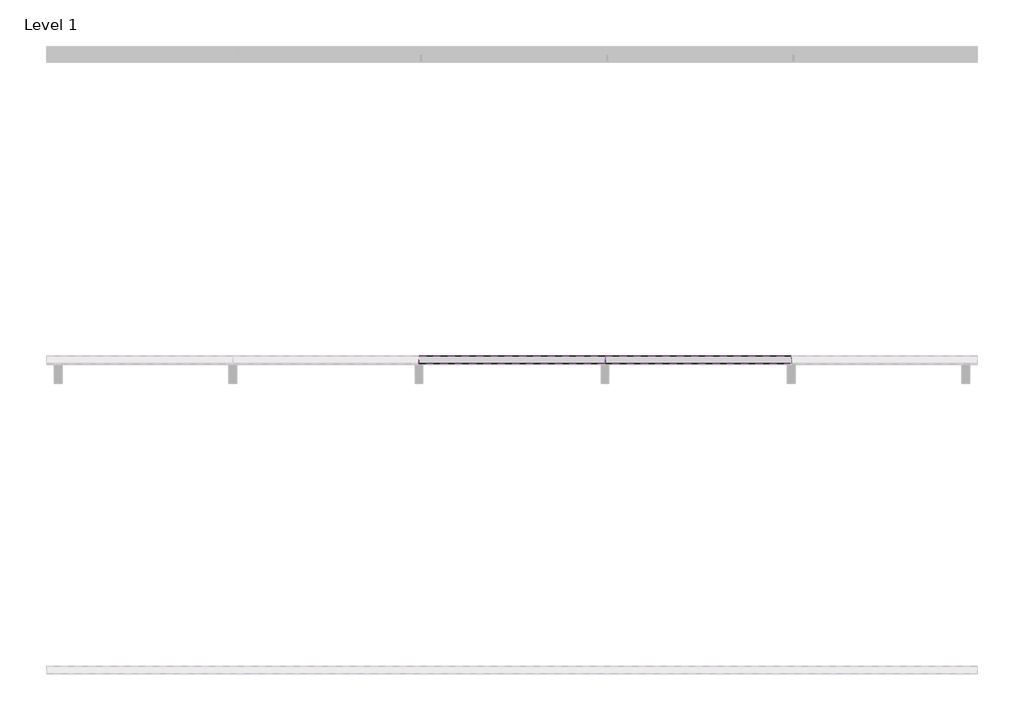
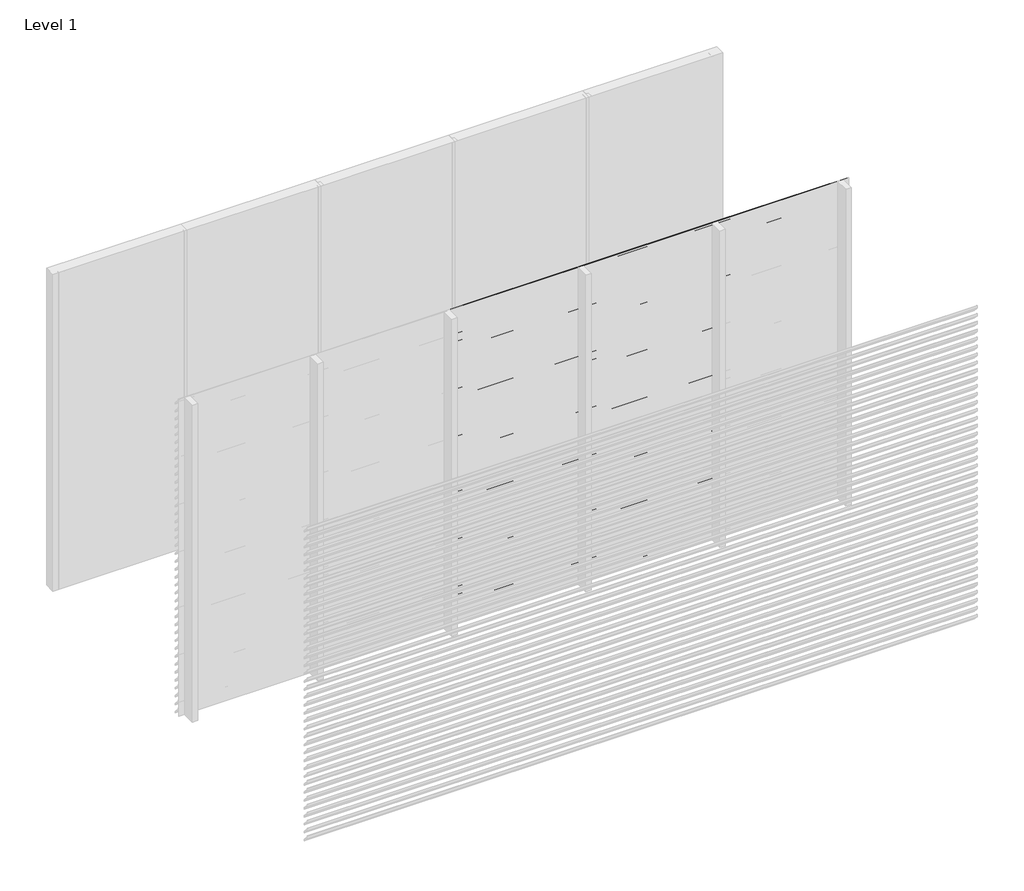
# One storey, part 3 of 11: 91 proxies.
"""IFC4 building model written with IfcOpenShell, lengths in millimetres."""

from ifc_helpers import new_model, si_unit, frame, origin, place, context, project, spatial, polyline, outline, extrude, element, save

model = new_model("IFC4")

# Units and contexts
model_context = context("Model", 3, world=origin())
ifc_project = project(units=[si_unit("LENGTHUNIT", "METRE", prefix="MILLI")], contexts=[model_context])

# Site, building, storey
site = spatial("IfcSite", under=ifc_project)
building = spatial("IfcBuilding", under=site)
storey = spatial("IfcBuildingStorey", under=building, Name="Level 1", Elevation=0.0)

# Proxies
placement = place(None, origin())
element("IfcBuildingElementProxy", 1, Name="Wall Sweeps", at=placement, inside=storey, context=model_context, shape_type="SweptSolid", body=[
    extrude(outline(polyline([(-17995.0, 3000.0), (-17995.0, 2990.7409854), (-17946.0, 2940.0), (-17946.0, 2924.0), (-17997.0, 2976.812046), (-17997.0, 3000.0), (-17995.0, 3000.0)])), frame((4799.9999998, 0.0, 0.0), z_axis=(1.0, 0.0, 0.0), x_axis=(0.0, 1.0, 0.0)), (0.0, 0.0, 1.0), 1200.0000002),
])
element("IfcBuildingElementProxy", 2, Name="Wall Sweeps", at=placement, inside=storey, context=model_context, shape_type="SweptSolid", body=[
    extrude(outline(polyline([(-17995.0, 2925.0), (-17995.0, 2915.7409854), (-17946.0, 2865.0), (-17946.0, 2849.0), (-17997.0, 2901.812046), (-17997.0, 2925.0), (-17995.0, 2925.0)])), frame((4799.9999998, 0.0, 0.0), z_axis=(1.0, 0.0, 0.0), x_axis=(0.0, 1.0, 0.0)), (0.0, 0.0, 1.0), 1200.0000002),
])
element("IfcBuildingElementProxy", 3, Name="Wall Sweeps", at=placement, inside=storey, context=model_context, shape_type="SweptSolid", body=[
    extrude(outline(polyline([(-17995.0, 2850.0), (-17995.0, 2840.7409854), (-17946.0, 2790.0), (-17946.0, 2774.0), (-17997.0, 2826.812046), (-17997.0, 2850.0), (-17995.0, 2850.0)])), frame((4799.9999998, 0.0, 0.0), z_axis=(1.0, 0.0, 0.0), x_axis=(0.0, 1.0, 0.0)), (0.0, 0.0, 1.0), 1200.0000002),
])
element("IfcBuildingElementProxy", 4, Name="Wall Sweeps", at=placement, inside=storey, context=model_context, shape_type="SweptSolid", body=[
    extrude(outline(polyline([(-17995.0, 2775.0), (-17995.0, 2765.7409854), (-17946.0, 2715.0), (-17946.0, 2699.0), (-17997.0, 2751.812046), (-17997.0, 2775.0), (-17995.0, 2775.0)])), frame((4799.9999998, 0.0, 0.0), z_axis=(1.0, 0.0, 0.0), x_axis=(0.0, 1.0, 0.0)), (0.0, 0.0, 1.0), 1200.0000002),
])
element("IfcBuildingElementProxy", 5, Name="Wall Sweeps", at=placement, inside=storey, context=model_context, shape_type="SweptSolid", body=[
    extrude(outline(polyline([(-17995.0, 2700.0), (-17995.0, 2690.7409854), (-17946.0, 2640.0), (-17946.0, 2624.0), (-17997.0, 2676.812046), (-17997.0, 2700.0), (-17995.0, 2700.0)])), frame((4799.9999998, 0.0, 0.0), z_axis=(1.0, 0.0, 0.0), x_axis=(0.0, 1.0, 0.0)), (0.0, 0.0, 1.0), 1200.0000002),
])
element("IfcBuildingElementProxy", 6, Name="Wall Sweeps", at=placement, inside=storey, context=model_context, shape_type="SweptSolid", body=[
    extrude(outline(polyline([(-17995.0, 2625.0), (-17995.0, 2615.7409854), (-17946.0, 2565.0), (-17946.0, 2549.0), (-17997.0, 2601.812046), (-17997.0, 2625.0), (-17995.0, 2625.0)])), frame((4799.9999998, 0.0, 0.0), z_axis=(1.0, 0.0, 0.0), x_axis=(0.0, 1.0, 0.0)), (0.0, 0.0, 1.0), 1200.0000002),
])
element("IfcBuildingElementProxy", 7, Name="Wall Sweeps", at=placement, inside=storey, context=model_context, shape_type="SweptSolid", body=[
    extrude(outline(polyline([(-17995.0, 2550.0), (-17995.0, 2540.7409854), (-17946.0, 2490.0), (-17946.0, 2474.0), (-17997.0, 2526.812046), (-17997.0, 2550.0), (-17995.0, 2550.0)])), frame((4799.9999998, 0.0, 0.0), z_axis=(1.0, 0.0, 0.0), x_axis=(0.0, 1.0, 0.0)), (0.0, 0.0, 1.0), 1200.0000002),
])
element("IfcBuildingElementProxy", 8, Name="Wall Sweeps", at=placement, inside=storey, context=model_context, shape_type="SweptSolid", body=[
    extrude(outline(polyline([(-17995.0, 2475.0), (-17995.0, 2465.7409854), (-17946.0, 2415.0), (-17946.0, 2399.0), (-17997.0, 2451.812046), (-17997.0, 2475.0), (-17995.0, 2475.0)])), frame((4799.9999998, 0.0, 0.0), z_axis=(1.0, 0.0, 0.0), x_axis=(0.0, 1.0, 0.0)), (0.0, 0.0, 1.0), 1200.0000002),
])
element("IfcBuildingElementProxy", 9, Name="Wall Sweeps", at=placement, inside=storey, context=model_context, shape_type="SweptSolid", body=[
    extrude(outline(polyline([(-17995.0, 3000.0), (-17995.0, 2990.7409854), (-17946.0, 2940.0), (-17946.0, 2924.0), (-17997.0, 2976.812046), (-17997.0, 3000.0), (-17995.0, 3000.0)])), frame((3599.9999999, 0.0, 0.0), z_axis=(1.0, 0.0, 0.0), x_axis=(0.0, 1.0, 0.0)), (0.0, 0.0, 1.0), 1199.9999999),
])
element("IfcBuildingElementProxy", 10, Name="Wall Sweeps", at=placement, inside=storey, context=model_context, shape_type="SweptSolid", body=[
    extrude(outline(polyline([(-17995.0, 2925.0), (-17995.0, 2915.7409854), (-17946.0, 2865.0), (-17946.0, 2849.0), (-17997.0, 2901.812046), (-17997.0, 2925.0), (-17995.0, 2925.0)])), frame((3599.9999999, 0.0, 0.0), z_axis=(1.0, 0.0, 0.0), x_axis=(0.0, 1.0, 0.0)), (0.0, 0.0, 1.0), 1199.9999999),
])
element("IfcBuildingElementProxy", 11, Name="Wall Sweeps", at=placement, inside=storey, context=model_context, shape_type="SweptSolid", body=[
    extrude(outline(polyline([(-17995.0, 2850.0), (-17995.0, 2840.7409854), (-17946.0, 2790.0), (-17946.0, 2774.0), (-17997.0, 2826.812046), (-17997.0, 2850.0), (-17995.0, 2850.0)])), frame((3599.9999999, 0.0, 0.0), z_axis=(1.0, 0.0, 0.0), x_axis=(0.0, 1.0, 0.0)), (0.0, 0.0, 1.0), 1199.9999999),
])
element("IfcBuildingElementProxy", 12, Name="Wall Sweeps", at=placement, inside=storey, context=model_context, shape_type="SweptSolid", body=[
    extrude(outline(polyline([(-17995.0, 2775.0), (-17995.0, 2765.7409854), (-17946.0, 2715.0), (-17946.0, 2699.0), (-17997.0, 2751.812046), (-17997.0, 2775.0), (-17995.0, 2775.0)])), frame((3599.9999999, 0.0, 0.0), z_axis=(1.0, 0.0, 0.0), x_axis=(0.0, 1.0, 0.0)), (0.0, 0.0, 1.0), 1199.9999999),
])
element("IfcBuildingElementProxy", 13, Name="Wall Sweeps", at=placement, inside=storey, context=model_context, shape_type="SweptSolid", body=[
    extrude(outline(polyline([(-17995.0, 2700.0), (-17995.0, 2690.7409854), (-17946.0, 2640.0), (-17946.0, 2624.0), (-17997.0, 2676.812046), (-17997.0, 2700.0), (-17995.0, 2700.0)])), frame((3599.9999999, 0.0, 0.0), z_axis=(1.0, 0.0, 0.0), x_axis=(0.0, 1.0, 0.0)), (0.0, 0.0, 1.0), 1199.9999999),
])
element("IfcBuildingElementProxy", 14, Name="Wall Sweeps", at=placement, inside=storey, context=model_context, shape_type="SweptSolid", body=[
    extrude(outline(polyline([(-17995.0, 2625.0), (-17995.0, 2615.7409854), (-17946.0, 2565.0), (-17946.0, 2549.0), (-17997.0, 2601.812046), (-17997.0, 2625.0), (-17995.0, 2625.0)])), frame((3599.9999999, 0.0, 0.0), z_axis=(1.0, 0.0, 0.0), x_axis=(0.0, 1.0, 0.0)), (0.0, 0.0, 1.0), 1199.9999999),
])
element("IfcBuildingElementProxy", 15, Name="Wall Sweeps", at=placement, inside=storey, context=model_context, shape_type="SweptSolid", body=[
    extrude(outline(polyline([(-17995.0, 2550.0), (-17995.0, 2540.7409854), (-17946.0, 2490.0), (-17946.0, 2474.0), (-17997.0, 2526.812046), (-17997.0, 2550.0), (-17995.0, 2550.0)])), frame((3599.9999999, 0.0, 0.0), z_axis=(1.0, 0.0, 0.0), x_axis=(0.0, 1.0, 0.0)), (0.0, 0.0, 1.0), 1199.9999999),
])
element("IfcBuildingElementProxy", 16, Name="Wall Sweeps", at=placement, inside=storey, context=model_context, shape_type="SweptSolid", body=[
    extrude(outline(polyline([(-17995.0, 2475.0), (-17995.0, 2465.7409854), (-17946.0, 2415.0), (-17946.0, 2399.0), (-17997.0, 2451.812046), (-17997.0, 2475.0), (-17995.0, 2475.0)])), frame((3599.9999999, 0.0, 0.0), z_axis=(1.0, 0.0, 0.0), x_axis=(0.0, 1.0, 0.0)), (0.0, 0.0, 1.0), 1199.9999999),
])
element("IfcBuildingElementProxy", 17, Name="Wall Sweeps", at=placement, inside=storey, context=model_context, shape_type="SweptSolid", body=[
    extrude(outline(polyline([(-17995.0, 2400.0), (-17995.0, 2390.7409854), (-17946.0, 2340.0), (-17946.0, 2324.0), (-17997.0, 2376.812046), (-17997.0, 2400.0), (-17995.0, 2400.0)])), frame((3599.9999999, 0.0, 0.0), z_axis=(1.0, 0.0, 0.0), x_axis=(0.0, 1.0, 0.0)), (0.0, 0.0, 1.0), 1199.9999999),
])
element("IfcBuildingElementProxy", 18, Name="Wall Sweeps", at=placement, inside=storey, context=model_context, shape_type="SweptSolid", body=[
    extrude(outline(polyline([(-17995.0, 2325.0), (-17995.0, 2315.7409854), (-17946.0, 2265.0), (-17946.0, 2249.0), (-17997.0, 2301.812046), (-17997.0, 2325.0), (-17995.0, 2325.0)])), frame((3599.9999999, 0.0, 0.0), z_axis=(1.0, 0.0, 0.0), x_axis=(0.0, 1.0, 0.0)), (0.0, 0.0, 1.0), 1199.9999999),
])
element("IfcBuildingElementProxy", 19, Name="Wall Sweeps", at=placement, inside=storey, context=model_context, shape_type="SweptSolid", body=[
    extrude(outline(polyline([(-17995.0, 2250.0), (-17995.0, 2240.7409854), (-17946.0, 2190.0), (-17946.0, 2174.0), (-17997.0, 2226.812046), (-17997.0, 2250.0), (-17995.0, 2250.0)])), frame((3599.9999999, 0.0, 0.0), z_axis=(1.0, 0.0, 0.0), x_axis=(0.0, 1.0, 0.0)), (0.0, 0.0, 1.0), 1199.9999999),
])
element("IfcBuildingElementProxy", 20, Name="Wall Sweeps", at=placement, inside=storey, context=model_context, shape_type="SweptSolid", body=[
    extrude(outline(polyline([(-17995.0, 2175.0), (-17995.0, 2165.7409854), (-17946.0, 2115.0), (-17946.0, 2099.0), (-17997.0, 2151.812046), (-17997.0, 2175.0), (-17995.0, 2175.0)])), frame((3599.9999999, 0.0, 0.0), z_axis=(1.0, 0.0, 0.0), x_axis=(0.0, 1.0, 0.0)), (0.0, 0.0, 1.0), 1199.9999999),
])
element("IfcBuildingElementProxy", 21, Name="Wall Sweeps", at=placement, inside=storey, context=model_context, shape_type="SweptSolid", body=[
    extrude(outline(polyline([(-17995.0, 2100.0), (-17995.0, 2090.7409854), (-17946.0, 2040.0), (-17946.0, 2024.0), (-17997.0, 2076.812046), (-17997.0, 2100.0), (-17995.0, 2100.0)])), frame((3599.9999999, 0.0, 0.0), z_axis=(1.0, 0.0, 0.0), x_axis=(0.0, 1.0, 0.0)), (0.0, 0.0, 1.0), 1199.9999999),
])
element("IfcBuildingElementProxy", 22, Name="Wall Sweeps", at=placement, inside=storey, context=model_context, shape_type="SweptSolid", body=[
    extrude(outline(polyline([(-17995.0, 2025.0), (-17995.0, 2015.7409854), (-17946.0, 1965.0), (-17946.0, 1949.0), (-17997.0, 2001.812046), (-17997.0, 2025.0), (-17995.0, 2025.0)])), frame((3599.9999999, 0.0, 0.0), z_axis=(1.0, 0.0, 0.0), x_axis=(0.0, 1.0, 0.0)), (0.0, 0.0, 1.0), 1199.9999999),
])
element("IfcBuildingElementProxy", 23, Name="Wall Sweeps", at=placement, inside=storey, context=model_context, shape_type="SweptSolid", body=[
    extrude(outline(polyline([(-17995.0, 1950.0), (-17995.0, 1940.7409854), (-17946.0, 1890.0), (-17946.0, 1874.0), (-17997.0, 1926.812046), (-17997.0, 1950.0), (-17995.0, 1950.0)])), frame((3599.9999999, 0.0, 0.0), z_axis=(1.0, 0.0, 0.0), x_axis=(0.0, 1.0, 0.0)), (0.0, 0.0, 1.0), 1199.9999999),
])
element("IfcBuildingElementProxy", 24, Name="Wall Sweeps", at=placement, inside=storey, context=model_context, shape_type="SweptSolid", body=[
    extrude(outline(polyline([(-17995.0, 1875.0), (-17995.0, 1865.7409854), (-17946.0, 1815.0), (-17946.0, 1799.0), (-17997.0, 1851.812046), (-17997.0, 1875.0), (-17995.0, 1875.0)])), frame((3599.9999999, 0.0, 0.0), z_axis=(1.0, 0.0, 0.0), x_axis=(0.0, 1.0, 0.0)), (0.0, 0.0, 1.0), 1199.9999999),
])
element("IfcBuildingElementProxy", 25, Name="Wall Sweeps", at=placement, inside=storey, context=model_context, shape_type="SweptSolid", body=[
    extrude(outline(polyline([(-17995.0, 1800.0), (-17995.0, 1790.7409854), (-17946.0, 1740.0), (-17946.0, 1724.0), (-17997.0, 1776.812046), (-17997.0, 1800.0), (-17995.0, 1800.0)])), frame((3599.9999999, 0.0, 0.0), z_axis=(1.0, 0.0, 0.0), x_axis=(0.0, 1.0, 0.0)), (0.0, 0.0, 1.0), 1199.9999999),
])
element("IfcBuildingElementProxy", 26, Name="Wall Sweeps", at=placement, inside=storey, context=model_context, shape_type="SweptSolid", body=[
    extrude(outline(polyline([(-17995.0, 1725.0), (-17995.0, 1715.7409854), (-17946.0, 1665.0), (-17946.0, 1649.0), (-17997.0, 1701.812046), (-17997.0, 1725.0), (-17995.0, 1725.0)])), frame((3599.9999999, 0.0, 0.0), z_axis=(1.0, 0.0, 0.0), x_axis=(0.0, 1.0, 0.0)), (0.0, 0.0, 1.0), 1199.9999999),
])
element("IfcBuildingElementProxy", 27, Name="Wall Sweeps", at=placement, inside=storey, context=model_context, shape_type="SweptSolid", body=[
    extrude(outline(polyline([(-17995.0, 1650.0), (-17995.0, 1640.7409854), (-17946.0, 1590.0), (-17946.0, 1574.0), (-17997.0, 1626.812046), (-17997.0, 1650.0), (-17995.0, 1650.0)])), frame((3599.9999999, 0.0, 0.0), z_axis=(1.0, 0.0, 0.0), x_axis=(0.0, 1.0, 0.0)), (0.0, 0.0, 1.0), 1199.9999999),
])
element("IfcBuildingElementProxy", 28, Name="Wall Sweeps", at=placement, inside=storey, context=model_context, shape_type="SweptSolid", body=[
    extrude(outline(polyline([(-17995.0, 1575.0), (-17995.0, 1565.7409854), (-17946.0, 1515.0), (-17946.0, 1499.0), (-17997.0, 1551.812046), (-17997.0, 1575.0), (-17995.0, 1575.0)])), frame((3599.9999999, 0.0, 0.0), z_axis=(1.0, 0.0, 0.0), x_axis=(0.0, 1.0, 0.0)), (0.0, 0.0, 1.0), 1199.9999999),
])
element("IfcBuildingElementProxy", 29, Name="Wall Sweeps", at=placement, inside=storey, context=model_context, shape_type="SweptSolid", body=[
    extrude(outline(polyline([(-17995.0, 1500.0), (-17995.0, 1490.7409854), (-17946.0, 1440.0), (-17946.0, 1424.0), (-17997.0, 1476.812046), (-17997.0, 1500.0), (-17995.0, 1500.0)])), frame((3599.9999999, 0.0, 0.0), z_axis=(1.0, 0.0, 0.0), x_axis=(0.0, 1.0, 0.0)), (0.0, 0.0, 1.0), 1199.9999999),
])
element("IfcBuildingElementProxy", 30, Name="Wall Sweeps", at=placement, inside=storey, context=model_context, shape_type="SweptSolid", body=[
    extrude(outline(polyline([(-17995.0, 1425.0), (-17995.0, 1415.7409854), (-17946.0, 1365.0), (-17946.0, 1349.0), (-17997.0, 1401.812046), (-17997.0, 1425.0), (-17995.0, 1425.0)])), frame((3599.9999999, 0.0, 0.0), z_axis=(1.0, 0.0, 0.0), x_axis=(0.0, 1.0, 0.0)), (0.0, 0.0, 1.0), 1199.9999999),
])
element("IfcBuildingElementProxy", 31, Name="Wall Sweeps", at=placement, inside=storey, context=model_context, shape_type="SweptSolid", body=[
    extrude(outline(polyline([(-17995.0, 1350.0), (-17995.0, 1340.7409854), (-17946.0, 1290.0), (-17946.0, 1274.0), (-17997.0, 1326.812046), (-17997.0, 1350.0), (-17995.0, 1350.0)])), frame((3599.9999999, 0.0, 0.0), z_axis=(1.0, 0.0, 0.0), x_axis=(0.0, 1.0, 0.0)), (0.0, 0.0, 1.0), 1199.9999999),
])
element("IfcBuildingElementProxy", 32, Name="Wall Sweeps", at=placement, inside=storey, context=model_context, shape_type="SweptSolid", body=[
    extrude(outline(polyline([(-17995.0, 1275.0), (-17995.0, 1265.7409854), (-17946.0, 1215.0), (-17946.0, 1199.0), (-17997.0, 1251.812046), (-17997.0, 1275.0), (-17995.0, 1275.0)])), frame((3599.9999999, 0.0, 0.0), z_axis=(1.0, 0.0, 0.0), x_axis=(0.0, 1.0, 0.0)), (0.0, 0.0, 1.0), 1199.9999999),
])
element("IfcBuildingElementProxy", 33, Name="Wall Sweeps", at=placement, inside=storey, context=model_context, shape_type="SweptSolid", body=[
    extrude(outline(polyline([(-17995.0, 1200.0), (-17995.0, 1190.7409854), (-17946.0, 1140.0), (-17946.0, 1124.0), (-17997.0, 1176.812046), (-17997.0, 1200.0), (-17995.0, 1200.0)])), frame((3599.9999999, 0.0, 0.0), z_axis=(1.0, 0.0, 0.0), x_axis=(0.0, 1.0, 0.0)), (0.0, 0.0, 1.0), 1199.9999999),
])
element("IfcBuildingElementProxy", 34, Name="Wall Sweeps", at=placement, inside=storey, context=model_context, shape_type="SweptSolid", body=[
    extrude(outline(polyline([(-17995.0, 1125.0), (-17995.0, 1115.7409854), (-17946.0, 1065.0), (-17946.0, 1049.0), (-17997.0, 1101.812046), (-17997.0, 1125.0), (-17995.0, 1125.0)])), frame((3599.9999999, 0.0, 0.0), z_axis=(1.0, 0.0, 0.0), x_axis=(0.0, 1.0, 0.0)), (0.0, 0.0, 1.0), 1199.9999999),
])
element("IfcBuildingElementProxy", 35, Name="Wall Sweeps", at=placement, inside=storey, context=model_context, shape_type="SweptSolid", body=[
    extrude(outline(polyline([(-17995.0, 1050.0), (-17995.0, 1040.7409854), (-17946.0, 990.0), (-17946.0, 974.0), (-17997.0, 1026.812046), (-17997.0, 1050.0), (-17995.0, 1050.0)])), frame((3599.9999999, 0.0, 0.0), z_axis=(1.0, 0.0, 0.0), x_axis=(0.0, 1.0, 0.0)), (0.0, 0.0, 1.0), 1199.9999999),
])
element("IfcBuildingElementProxy", 36, Name="Wall Sweeps", at=placement, inside=storey, context=model_context, shape_type="SweptSolid", body=[
    extrude(outline(polyline([(-17995.0, 975.0), (-17995.0, 965.7409854), (-17946.0, 915.0), (-17946.0, 899.0), (-17997.0, 951.812046), (-17997.0, 975.0), (-17995.0, 975.0)])), frame((3599.9999999, 0.0, 0.0), z_axis=(1.0, 0.0, 0.0), x_axis=(0.0, 1.0, 0.0)), (0.0, 0.0, 1.0), 1199.9999999),
])
element("IfcBuildingElementProxy", 37, Name="Wall Sweeps", at=placement, inside=storey, context=model_context, shape_type="SweptSolid", body=[
    extrude(outline(polyline([(-17995.0, 900.0), (-17995.0, 890.7409854), (-17946.0, 840.0), (-17946.0, 824.0), (-17997.0, 876.812046), (-17997.0, 900.0), (-17995.0, 900.0)])), frame((3599.9999999, 0.0, 0.0), z_axis=(1.0, 0.0, 0.0), x_axis=(0.0, 1.0, 0.0)), (0.0, 0.0, 1.0), 1199.9999999),
])
element("IfcBuildingElementProxy", 38, Name="Wall Sweeps", at=placement, inside=storey, context=model_context, shape_type="SweptSolid", body=[
    extrude(outline(polyline([(-17995.0, 825.0), (-17995.0, 815.7409854), (-17946.0, 765.0), (-17946.0, 749.0), (-17997.0, 801.812046), (-17997.0, 825.0), (-17995.0, 825.0)])), frame((3599.9999999, 0.0, 0.0), z_axis=(1.0, 0.0, 0.0), x_axis=(0.0, 1.0, 0.0)), (0.0, 0.0, 1.0), 1199.9999999),
])
element("IfcBuildingElementProxy", 39, Name="Wall Sweeps", at=placement, inside=storey, context=model_context, shape_type="SweptSolid", body=[
    extrude(outline(polyline([(-17995.0, 750.0), (-17995.0, 740.7409854), (-17946.0, 690.0), (-17946.0, 674.0), (-17997.0, 726.812046), (-17997.0, 750.0), (-17995.0, 750.0)])), frame((3599.9999999, 0.0, 0.0), z_axis=(1.0, 0.0, 0.0), x_axis=(0.0, 1.0, 0.0)), (0.0, 0.0, 1.0), 1199.9999999),
])
element("IfcBuildingElementProxy", 40, Name="Wall Sweeps", at=placement, inside=storey, context=model_context, shape_type="SweptSolid", body=[
    extrude(outline(polyline([(-17995.0, 675.0), (-17995.0, 665.7409854), (-17946.0, 615.0), (-17946.0, 599.0), (-17997.0, 651.812046), (-17997.0, 675.0), (-17995.0, 675.0)])), frame((3599.9999999, 0.0, 0.0), z_axis=(1.0, 0.0, 0.0), x_axis=(0.0, 1.0, 0.0)), (0.0, 0.0, 1.0), 1199.9999999),
])
element("IfcBuildingElementProxy", 41, Name="Wall Sweeps", at=placement, inside=storey, context=model_context, shape_type="SweptSolid", body=[
    extrude(outline(polyline([(-17995.0, 600.0), (-17995.0, 590.7409854), (-17946.0, 540.0), (-17946.0, 524.0), (-17997.0, 576.812046), (-17997.0, 600.0), (-17995.0, 600.0)])), frame((3599.9999999, 0.0, 0.0), z_axis=(1.0, 0.0, 0.0), x_axis=(0.0, 1.0, 0.0)), (0.0, 0.0, 1.0), 1199.9999999),
])
element("IfcBuildingElementProxy", 42, Name="Wall Sweeps", at=placement, inside=storey, context=model_context, shape_type="SweptSolid", body=[
    extrude(outline(polyline([(-17995.0, 525.0), (-17995.0, 515.7409854), (-17946.0, 465.0), (-17946.0, 449.0), (-17997.0, 501.812046), (-17997.0, 525.0), (-17995.0, 525.0)])), frame((3599.9999999, 0.0, 0.0), z_axis=(1.0, 0.0, 0.0), x_axis=(0.0, 1.0, 0.0)), (0.0, 0.0, 1.0), 1199.9999999),
])
element("IfcBuildingElementProxy", 43, Name="Wall Sweeps", at=placement, inside=storey, context=model_context, shape_type="SweptSolid", body=[
    extrude(outline(polyline([(-17995.0, 450.0), (-17995.0, 440.7409854), (-17946.0, 390.0), (-17946.0, 374.0), (-17997.0, 426.812046), (-17997.0, 450.0), (-17995.0, 450.0)])), frame((3599.9999999, 0.0, 0.0), z_axis=(1.0, 0.0, 0.0), x_axis=(0.0, 1.0, 0.0)), (0.0, 0.0, 1.0), 1199.9999999),
])
element("IfcBuildingElementProxy", 44, Name="Wall Sweeps", at=placement, inside=storey, context=model_context, shape_type="SweptSolid", body=[
    extrude(outline(polyline([(-17995.0, 375.0), (-17995.0, 365.7409854), (-17946.0, 315.0), (-17946.0, 299.0), (-17997.0, 351.812046), (-17997.0, 375.0), (-17995.0, 375.0)])), frame((3599.9999999, 0.0, 0.0), z_axis=(1.0, 0.0, 0.0), x_axis=(0.0, 1.0, 0.0)), (0.0, 0.0, 1.0), 1199.9999999),
])
element("IfcBuildingElementProxy", 45, Name="Wall Sweeps", at=placement, inside=storey, context=model_context, shape_type="SweptSolid", body=[
    extrude(outline(polyline([(-17995.0, 300.0), (-17995.0, 290.7409854), (-17946.0, 240.0), (-17946.0, 224.0), (-17997.0, 276.812046), (-17997.0, 300.0), (-17995.0, 300.0)])), frame((3599.9999999, 0.0, 0.0), z_axis=(1.0, 0.0, 0.0), x_axis=(0.0, 1.0, 0.0)), (0.0, 0.0, 1.0), 1199.9999999),
])
element("IfcBuildingElementProxy", 46, Name="Wall Sweeps", at=placement, inside=storey, context=model_context, shape_type="SweptSolid", body=[
    extrude(outline(polyline([(-17995.0, 225.0), (-17995.0, 215.7409854), (-17946.0, 165.0), (-17946.0, 149.0), (-17997.0, 201.812046), (-17997.0, 225.0), (-17995.0, 225.0)])), frame((3599.9999999, 0.0, 0.0), z_axis=(1.0, 0.0, 0.0), x_axis=(0.0, 1.0, 0.0)), (0.0, 0.0, 1.0), 1199.9999999),
])
element("IfcBuildingElementProxy", 47, Name="Wall Sweeps", at=placement, inside=storey, context=model_context, shape_type="SweptSolid", body=[
    extrude(outline(polyline([(-17995.0, 150.0), (-17995.0, 140.7409854), (-17946.0, 90.0), (-17946.0, 74.0), (-17997.0, 126.812046), (-17997.0, 150.0), (-17995.0, 150.0)])), frame((3599.9999999, 0.0, 0.0), z_axis=(1.0, 0.0, 0.0), x_axis=(0.0, 1.0, 0.0)), (0.0, 0.0, 1.0), 1199.9999999),
])
element("IfcBuildingElementProxy", 48, Name="Wall Sweeps", at=placement, inside=storey, context=model_context, shape_type="SweptSolid", body=[
    extrude(outline(polyline([(-17995.0, 75.0), (-17995.0, 65.7409854), (-17946.0, 15.0), (-17946.0, -1.0), (-17997.0, 51.812046), (-17997.0, 75.0), (-17995.0, 75.0)])), frame((3599.9999999, 0.0, 0.0), z_axis=(1.0, 0.0, 0.0), x_axis=(0.0, 1.0, 0.0)), (0.0, 0.0, 1.0), 1199.9999999),
])
element("IfcBuildingElementProxy", 49, Name="Wall Sweeps", at=placement, inside=storey, context=model_context, shape_type="SweptSolid", body=[
    extrude(outline(polyline([(-17995.0, 3000.0), (-17995.0, 2990.7409854), (-17946.0, 2940.0), (-17946.0, 2924.0), (-17997.0, 2976.812046), (-17997.0, 3000.0), (-17995.0, 3000.0)])), frame((2400.0000001, 0.0, 0.0), z_axis=(1.0, 0.0, 0.0), x_axis=(0.0, 1.0, 0.0)), (0.0, 0.0, 1.0), 1199.9999999),
])
element("IfcBuildingElementProxy", 50, Name="Wall Sweeps", at=placement, inside=storey, context=model_context, shape_type="SweptSolid", body=[
    extrude(outline(polyline([(-17995.0, 2925.0), (-17995.0, 2915.7409854), (-17946.0, 2865.0), (-17946.0, 2849.0), (-17997.0, 2901.812046), (-17997.0, 2925.0), (-17995.0, 2925.0)])), frame((2400.0000001, 0.0, 0.0), z_axis=(1.0, 0.0, 0.0), x_axis=(0.0, 1.0, 0.0)), (0.0, 0.0, 1.0), 1199.9999999),
])
element("IfcBuildingElementProxy", 51, Name="Wall Sweeps", at=placement, inside=storey, context=model_context, shape_type="SweptSolid", body=[
    extrude(outline(polyline([(-17995.0, 2850.0), (-17995.0, 2840.7409854), (-17946.0, 2790.0), (-17946.0, 2774.0), (-17997.0, 2826.812046), (-17997.0, 2850.0), (-17995.0, 2850.0)])), frame((2400.0000001, 0.0, 0.0), z_axis=(1.0, 0.0, 0.0), x_axis=(0.0, 1.0, 0.0)), (0.0, 0.0, 1.0), 1199.9999999),
])
element("IfcBuildingElementProxy", 52, Name="Wall Sweeps", at=placement, inside=storey, context=model_context, shape_type="SweptSolid", body=[
    extrude(outline(polyline([(-17995.0, 2775.0), (-17995.0, 2765.7409854), (-17946.0, 2715.0), (-17946.0, 2699.0), (-17997.0, 2751.812046), (-17997.0, 2775.0), (-17995.0, 2775.0)])), frame((2400.0000001, 0.0, 0.0), z_axis=(1.0, 0.0, 0.0), x_axis=(0.0, 1.0, 0.0)), (0.0, 0.0, 1.0), 1199.9999999),
])
element("IfcBuildingElementProxy", 53, Name="Wall Sweeps", at=placement, inside=storey, context=model_context, shape_type="SweptSolid", body=[
    extrude(outline(polyline([(-17995.0, 2700.0), (-17995.0, 2690.7409854), (-17946.0, 2640.0), (-17946.0, 2624.0), (-17997.0, 2676.812046), (-17997.0, 2700.0), (-17995.0, 2700.0)])), frame((2400.0000001, 0.0, 0.0), z_axis=(1.0, 0.0, 0.0), x_axis=(0.0, 1.0, 0.0)), (0.0, 0.0, 1.0), 1199.9999999),
])
element("IfcBuildingElementProxy", 54, Name="Wall Sweeps", at=placement, inside=storey, context=model_context, shape_type="SweptSolid", body=[
    extrude(outline(polyline([(-17995.0, 2625.0), (-17995.0, 2615.7409854), (-17946.0, 2565.0), (-17946.0, 2549.0), (-17997.0, 2601.812046), (-17997.0, 2625.0), (-17995.0, 2625.0)])), frame((2400.0000001, 0.0, 0.0), z_axis=(1.0, 0.0, 0.0), x_axis=(0.0, 1.0, 0.0)), (0.0, 0.0, 1.0), 1199.9999999),
])
element("IfcBuildingElementProxy", 55, Name="Wall Sweeps", at=placement, inside=storey, context=model_context, shape_type="SweptSolid", body=[
    extrude(outline(polyline([(-17995.0, 2550.0), (-17995.0, 2540.7409854), (-17946.0, 2490.0), (-17946.0, 2474.0), (-17997.0, 2526.812046), (-17997.0, 2550.0), (-17995.0, 2550.0)])), frame((2400.0000001, 0.0, 0.0), z_axis=(1.0, 0.0, 0.0), x_axis=(0.0, 1.0, 0.0)), (0.0, 0.0, 1.0), 1199.9999999),
])
element("IfcBuildingElementProxy", 56, Name="Wall Sweeps", at=placement, inside=storey, context=model_context, shape_type="SweptSolid", body=[
    extrude(outline(polyline([(-17995.0, 2475.0), (-17995.0, 2465.7409854), (-17946.0, 2415.0), (-17946.0, 2399.0), (-17997.0, 2451.812046), (-17997.0, 2475.0), (-17995.0, 2475.0)])), frame((2400.0000001, 0.0, 0.0), z_axis=(1.0, 0.0, 0.0), x_axis=(0.0, 1.0, 0.0)), (0.0, 0.0, 1.0), 1199.9999999),
])
element("IfcBuildingElementProxy", 57, Name="Wall Sweeps", at=placement, inside=storey, context=model_context, shape_type="SweptSolid", body=[
    extrude(outline(polyline([(-17995.0, 2400.0), (-17995.0, 2390.7409854), (-17946.0, 2340.0), (-17946.0, 2324.0), (-17997.0, 2376.812046), (-17997.0, 2400.0), (-17995.0, 2400.0)])), frame((2400.0000001, 0.0, 0.0), z_axis=(1.0, 0.0, 0.0), x_axis=(0.0, 1.0, 0.0)), (0.0, 0.0, 1.0), 1199.9999999),
])
element("IfcBuildingElementProxy", 58, Name="Wall Sweeps", at=placement, inside=storey, context=model_context, shape_type="SweptSolid", body=[
    extrude(outline(polyline([(-17995.0, 2325.0), (-17995.0, 2315.7409854), (-17946.0, 2265.0), (-17946.0, 2249.0), (-17997.0, 2301.812046), (-17997.0, 2325.0), (-17995.0, 2325.0)])), frame((2400.0000001, 0.0, 0.0), z_axis=(1.0, 0.0, 0.0), x_axis=(0.0, 1.0, 0.0)), (0.0, 0.0, 1.0), 1199.9999999),
])
element("IfcBuildingElementProxy", 59, Name="Wall Sweeps", at=placement, inside=storey, context=model_context, shape_type="SweptSolid", body=[
    extrude(outline(polyline([(-17995.0, 2250.0), (-17995.0, 2240.7409854), (-17946.0, 2190.0), (-17946.0, 2174.0), (-17997.0, 2226.812046), (-17997.0, 2250.0), (-17995.0, 2250.0)])), frame((2400.0000001, 0.0, 0.0), z_axis=(1.0, 0.0, 0.0), x_axis=(0.0, 1.0, 0.0)), (0.0, 0.0, 1.0), 1199.9999999),
])
element("IfcBuildingElementProxy", 60, Name="Wall Sweeps", at=placement, inside=storey, context=model_context, shape_type="SweptSolid", body=[
    extrude(outline(polyline([(-17995.0, 2175.0), (-17995.0, 2165.7409854), (-17946.0, 2115.0), (-17946.0, 2099.0), (-17997.0, 2151.812046), (-17997.0, 2175.0), (-17995.0, 2175.0)])), frame((2400.0000001, 0.0, 0.0), z_axis=(1.0, 0.0, 0.0), x_axis=(0.0, 1.0, 0.0)), (0.0, 0.0, 1.0), 1199.9999999),
])
element("IfcBuildingElementProxy", 61, Name="Wall Sweeps", at=placement, inside=storey, context=model_context, shape_type="SweptSolid", body=[
    extrude(outline(polyline([(-17995.0, 2100.0), (-17995.0, 2090.7409854), (-17946.0, 2040.0), (-17946.0, 2024.0), (-17997.0, 2076.812046), (-17997.0, 2100.0), (-17995.0, 2100.0)])), frame((2400.0000001, 0.0, 0.0), z_axis=(1.0, 0.0, 0.0), x_axis=(0.0, 1.0, 0.0)), (0.0, 0.0, 1.0), 1199.9999999),
])
element("IfcBuildingElementProxy", 62, Name="Wall Sweeps", at=placement, inside=storey, context=model_context, shape_type="SweptSolid", body=[
    extrude(outline(polyline([(-17995.0, 2025.0), (-17995.0, 2015.7409854), (-17946.0, 1965.0), (-17946.0, 1949.0), (-17997.0, 2001.812046), (-17997.0, 2025.0), (-17995.0, 2025.0)])), frame((2400.0000001, 0.0, 0.0), z_axis=(1.0, 0.0, 0.0), x_axis=(0.0, 1.0, 0.0)), (0.0, 0.0, 1.0), 1199.9999999),
])
element("IfcBuildingElementProxy", 63, Name="Wall Sweeps", at=placement, inside=storey, context=model_context, shape_type="SweptSolid", body=[
    extrude(outline(polyline([(-17995.0, 1950.0), (-17995.0, 1940.7409854), (-17946.0, 1890.0), (-17946.0, 1874.0), (-17997.0, 1926.812046), (-17997.0, 1950.0), (-17995.0, 1950.0)])), frame((2400.0000001, 0.0, 0.0), z_axis=(1.0, 0.0, 0.0), x_axis=(0.0, 1.0, 0.0)), (0.0, 0.0, 1.0), 1199.9999999),
])
element("IfcBuildingElementProxy", 64, Name="Wall Sweeps", at=placement, inside=storey, context=model_context, shape_type="SweptSolid", body=[
    extrude(outline(polyline([(-17995.0, 1875.0), (-17995.0, 1865.7409854), (-17946.0, 1815.0), (-17946.0, 1799.0), (-17997.0, 1851.812046), (-17997.0, 1875.0), (-17995.0, 1875.0)])), frame((2400.0000001, 0.0, 0.0), z_axis=(1.0, 0.0, 0.0), x_axis=(0.0, 1.0, 0.0)), (0.0, 0.0, 1.0), 1199.9999999),
])
element("IfcBuildingElementProxy", 65, Name="Wall Sweeps", at=placement, inside=storey, context=model_context, shape_type="SweptSolid", body=[
    extrude(outline(polyline([(-17995.0, 1800.0), (-17995.0, 1790.7409854), (-17946.0, 1740.0), (-17946.0, 1724.0), (-17997.0, 1776.812046), (-17997.0, 1800.0), (-17995.0, 1800.0)])), frame((2400.0000001, 0.0, 0.0), z_axis=(1.0, 0.0, 0.0), x_axis=(0.0, 1.0, 0.0)), (0.0, 0.0, 1.0), 1199.9999999),
])
element("IfcBuildingElementProxy", 66, Name="Wall Sweeps", at=placement, inside=storey, context=model_context, shape_type="SweptSolid", body=[
    extrude(outline(polyline([(-17995.0, 1725.0), (-17995.0, 1715.7409854), (-17946.0, 1665.0), (-17946.0, 1649.0), (-17997.0, 1701.812046), (-17997.0, 1725.0), (-17995.0, 1725.0)])), frame((2400.0000001, 0.0, 0.0), z_axis=(1.0, 0.0, 0.0), x_axis=(0.0, 1.0, 0.0)), (0.0, 0.0, 1.0), 1199.9999999),
])
element("IfcBuildingElementProxy", 67, Name="Wall Sweeps", at=placement, inside=storey, context=model_context, shape_type="SweptSolid", body=[
    extrude(outline(polyline([(-17995.0, 1650.0), (-17995.0, 1640.7409854), (-17946.0, 1590.0), (-17946.0, 1574.0), (-17997.0, 1626.812046), (-17997.0, 1650.0), (-17995.0, 1650.0)])), frame((2400.0000001, 0.0, 0.0), z_axis=(1.0, 0.0, 0.0), x_axis=(0.0, 1.0, 0.0)), (0.0, 0.0, 1.0), 1199.9999999),
])
element("IfcBuildingElementProxy", 68, Name="Wall Sweeps", at=placement, inside=storey, context=model_context, shape_type="SweptSolid", body=[
    extrude(outline(polyline([(-17995.0, 1575.0), (-17995.0, 1565.7409854), (-17946.0, 1515.0), (-17946.0, 1499.0), (-17997.0, 1551.812046), (-17997.0, 1575.0), (-17995.0, 1575.0)])), frame((2400.0000001, 0.0, 0.0), z_axis=(1.0, 0.0, 0.0), x_axis=(0.0, 1.0, 0.0)), (0.0, 0.0, 1.0), 1199.9999999),
])
element("IfcBuildingElementProxy", 69, Name="Wall Sweeps", at=placement, inside=storey, context=model_context, shape_type="SweptSolid", body=[
    extrude(outline(polyline([(-17995.0, 1500.0), (-17995.0, 1490.7409854), (-17946.0, 1440.0), (-17946.0, 1424.0), (-17997.0, 1476.812046), (-17997.0, 1500.0), (-17995.0, 1500.0)])), frame((2400.0000001, 0.0, 0.0), z_axis=(1.0, 0.0, 0.0), x_axis=(0.0, 1.0, 0.0)), (0.0, 0.0, 1.0), 1199.9999999),
])
element("IfcBuildingElementProxy", 70, Name="Wall Sweeps", at=placement, inside=storey, context=model_context, shape_type="SweptSolid", body=[
    extrude(outline(polyline([(-17995.0, 1425.0), (-17995.0, 1415.7409854), (-17946.0, 1365.0), (-17946.0, 1349.0), (-17997.0, 1401.812046), (-17997.0, 1425.0), (-17995.0, 1425.0)])), frame((2400.0000001, 0.0, 0.0), z_axis=(1.0, 0.0, 0.0), x_axis=(0.0, 1.0, 0.0)), (0.0, 0.0, 1.0), 1199.9999999),
])
element("IfcBuildingElementProxy", 71, Name="Wall Sweeps", at=placement, inside=storey, context=model_context, shape_type="SweptSolid", body=[
    extrude(outline(polyline([(-17995.0, 1350.0), (-17995.0, 1340.7409854), (-17946.0, 1290.0), (-17946.0, 1274.0), (-17997.0, 1326.812046), (-17997.0, 1350.0), (-17995.0, 1350.0)])), frame((2400.0000001, 0.0, 0.0), z_axis=(1.0, 0.0, 0.0), x_axis=(0.0, 1.0, 0.0)), (0.0, 0.0, 1.0), 1199.9999999),
])
element("IfcBuildingElementProxy", 72, Name="Wall Sweeps", at=placement, inside=storey, context=model_context, shape_type="SweptSolid", body=[
    extrude(outline(polyline([(-17995.0, 1275.0), (-17995.0, 1265.7409854), (-17946.0, 1215.0), (-17946.0, 1199.0), (-17997.0, 1251.812046), (-17997.0, 1275.0), (-17995.0, 1275.0)])), frame((2400.0000001, 0.0, 0.0), z_axis=(1.0, 0.0, 0.0), x_axis=(0.0, 1.0, 0.0)), (0.0, 0.0, 1.0), 1199.9999999),
])
element("IfcBuildingElementProxy", 73, Name="Wall Sweeps", at=placement, inside=storey, context=model_context, shape_type="SweptSolid", body=[
    extrude(outline(polyline([(-17995.0, 1200.0), (-17995.0, 1190.7409854), (-17946.0, 1140.0), (-17946.0, 1124.0), (-17997.0, 1176.812046), (-17997.0, 1200.0), (-17995.0, 1200.0)])), frame((2400.0000001, 0.0, 0.0), z_axis=(1.0, 0.0, 0.0), x_axis=(0.0, 1.0, 0.0)), (0.0, 0.0, 1.0), 1199.9999999),
])
element("IfcBuildingElementProxy", 74, Name="Wall Sweeps", at=placement, inside=storey, context=model_context, shape_type="SweptSolid", body=[
    extrude(outline(polyline([(-17995.0, 1125.0), (-17995.0, 1115.7409854), (-17946.0, 1065.0), (-17946.0, 1049.0), (-17997.0, 1101.812046), (-17997.0, 1125.0), (-17995.0, 1125.0)])), frame((2400.0000001, 0.0, 0.0), z_axis=(1.0, 0.0, 0.0), x_axis=(0.0, 1.0, 0.0)), (0.0, 0.0, 1.0), 1199.9999999),
])
element("IfcBuildingElementProxy", 75, Name="Wall Sweeps", at=placement, inside=storey, context=model_context, shape_type="SweptSolid", body=[
    extrude(outline(polyline([(-17995.0, 1050.0), (-17995.0, 1040.7409854), (-17946.0, 990.0), (-17946.0, 974.0), (-17997.0, 1026.812046), (-17997.0, 1050.0), (-17995.0, 1050.0)])), frame((2400.0000001, 0.0, 0.0), z_axis=(1.0, 0.0, 0.0), x_axis=(0.0, 1.0, 0.0)), (0.0, 0.0, 1.0), 1199.9999999),
])
element("IfcBuildingElementProxy", 76, Name="Wall Sweeps", at=placement, inside=storey, context=model_context, shape_type="SweptSolid", body=[
    extrude(outline(polyline([(-17995.0, 975.0), (-17995.0, 965.7409854), (-17946.0, 915.0), (-17946.0, 899.0), (-17997.0, 951.812046), (-17997.0, 975.0), (-17995.0, 975.0)])), frame((2400.0000001, 0.0, 0.0), z_axis=(1.0, 0.0, 0.0), x_axis=(0.0, 1.0, 0.0)), (0.0, 0.0, 1.0), 1199.9999999),
])
element("IfcBuildingElementProxy", 77, Name="Wall Sweeps", at=placement, inside=storey, context=model_context, shape_type="SweptSolid", body=[
    extrude(outline(polyline([(-17995.0, 900.0), (-17995.0, 890.7409854), (-17946.0, 840.0), (-17946.0, 824.0), (-17997.0, 876.812046), (-17997.0, 900.0), (-17995.0, 900.0)])), frame((2400.0000001, 0.0, 0.0), z_axis=(1.0, 0.0, 0.0), x_axis=(0.0, 1.0, 0.0)), (0.0, 0.0, 1.0), 1199.9999999),
])
element("IfcBuildingElementProxy", 78, Name="Wall Sweeps", at=placement, inside=storey, context=model_context, shape_type="SweptSolid", body=[
    extrude(outline(polyline([(-17995.0, 825.0), (-17995.0, 815.7409854), (-17946.0, 765.0), (-17946.0, 749.0), (-17997.0, 801.812046), (-17997.0, 825.0), (-17995.0, 825.0)])), frame((2400.0000001, 0.0, 0.0), z_axis=(1.0, 0.0, 0.0), x_axis=(0.0, 1.0, 0.0)), (0.0, 0.0, 1.0), 1199.9999999),
])
element("IfcBuildingElementProxy", 79, Name="Wall Sweeps", at=placement, inside=storey, context=model_context, shape_type="SweptSolid", body=[
    extrude(outline(polyline([(-17995.0, 750.0), (-17995.0, 740.7409854), (-17946.0, 690.0), (-17946.0, 674.0), (-17997.0, 726.812046), (-17997.0, 750.0), (-17995.0, 750.0)])), frame((2400.0000001, 0.0, 0.0), z_axis=(1.0, 0.0, 0.0), x_axis=(0.0, 1.0, 0.0)), (0.0, 0.0, 1.0), 1199.9999999),
])
element("IfcBuildingElementProxy", 80, Name="Wall Sweeps", at=placement, inside=storey, context=model_context, shape_type="SweptSolid", body=[
    extrude(outline(polyline([(-17995.0, 675.0), (-17995.0, 665.7409854), (-17946.0, 615.0), (-17946.0, 599.0), (-17997.0, 651.812046), (-17997.0, 675.0), (-17995.0, 675.0)])), frame((2400.0000001, 0.0, 0.0), z_axis=(1.0, 0.0, 0.0), x_axis=(0.0, 1.0, 0.0)), (0.0, 0.0, 1.0), 1199.9999999),
])
element("IfcBuildingElementProxy", 81, Name="Wall Sweeps", at=placement, inside=storey, context=model_context, shape_type="SweptSolid", body=[
    extrude(outline(polyline([(-17995.0, 600.0), (-17995.0, 590.7409854), (-17946.0, 540.0), (-17946.0, 524.0), (-17997.0, 576.812046), (-17997.0, 600.0), (-17995.0, 600.0)])), frame((2400.0000001, 0.0, 0.0), z_axis=(1.0, 0.0, 0.0), x_axis=(0.0, 1.0, 0.0)), (0.0, 0.0, 1.0), 1199.9999999),
])
element("IfcBuildingElementProxy", 82, Name="Wall Sweeps", at=placement, inside=storey, context=model_context, shape_type="SweptSolid", body=[
    extrude(outline(polyline([(-17995.0, 525.0), (-17995.0, 515.7409854), (-17946.0, 465.0), (-17946.0, 449.0), (-17997.0, 501.812046), (-17997.0, 525.0), (-17995.0, 525.0)])), frame((2400.0000001, 0.0, 0.0), z_axis=(1.0, 0.0, 0.0), x_axis=(0.0, 1.0, 0.0)), (0.0, 0.0, 1.0), 1199.9999999),
])
element("IfcBuildingElementProxy", 83, Name="Wall Sweeps", at=placement, inside=storey, context=model_context, shape_type="SweptSolid", body=[
    extrude(outline(polyline([(-17995.0, 450.0), (-17995.0, 440.7409854), (-17946.0, 390.0), (-17946.0, 374.0), (-17997.0, 426.812046), (-17997.0, 450.0), (-17995.0, 450.0)])), frame((2400.0000001, 0.0, 0.0), z_axis=(1.0, 0.0, 0.0), x_axis=(0.0, 1.0, 0.0)), (0.0, 0.0, 1.0), 1199.9999999),
])
element("IfcBuildingElementProxy", 84, Name="Wall Sweeps", at=placement, inside=storey, context=model_context, shape_type="SweptSolid", body=[
    extrude(outline(polyline([(-17995.0, 375.0), (-17995.0, 365.7409854), (-17946.0, 315.0), (-17946.0, 299.0), (-17997.0, 351.812046), (-17997.0, 375.0), (-17995.0, 375.0)])), frame((2400.0000001, 0.0, 0.0), z_axis=(1.0, 0.0, 0.0), x_axis=(0.0, 1.0, 0.0)), (0.0, 0.0, 1.0), 1199.9999999),
])
element("IfcBuildingElementProxy", 85, Name="Wall Sweeps", at=placement, inside=storey, context=model_context, shape_type="SweptSolid", body=[
    extrude(outline(polyline([(-17995.0, 300.0), (-17995.0, 290.7409854), (-17946.0, 240.0), (-17946.0, 224.0), (-17997.0, 276.812046), (-17997.0, 300.0), (-17995.0, 300.0)])), frame((2400.0000001, 0.0, 0.0), z_axis=(1.0, 0.0, 0.0), x_axis=(0.0, 1.0, 0.0)), (0.0, 0.0, 1.0), 1199.9999999),
])
element("IfcBuildingElementProxy", 86, Name="Wall Sweeps", at=placement, inside=storey, context=model_context, shape_type="SweptSolid", body=[
    extrude(outline(polyline([(-17995.0, 225.0), (-17995.0, 215.7409854), (-17946.0, 165.0), (-17946.0, 149.0), (-17997.0, 201.812046), (-17997.0, 225.0), (-17995.0, 225.0)])), frame((2400.0000001, 0.0, 0.0), z_axis=(1.0, 0.0, 0.0), x_axis=(0.0, 1.0, 0.0)), (0.0, 0.0, 1.0), 1199.9999999),
])
element("IfcBuildingElementProxy", 87, Name="Wall Sweeps", at=placement, inside=storey, context=model_context, shape_type="SweptSolid", body=[
    extrude(outline(polyline([(-17995.0, 150.0), (-17995.0, 140.7409854), (-17946.0, 90.0), (-17946.0, 74.0), (-17997.0, 126.812046), (-17997.0, 150.0), (-17995.0, 150.0)])), frame((2400.0000001, 0.0, 0.0), z_axis=(1.0, 0.0, 0.0), x_axis=(0.0, 1.0, 0.0)), (0.0, 0.0, 1.0), 1199.9999999),
])
element("IfcBuildingElementProxy", 88, Name="Wall Sweeps", at=placement, inside=storey, context=model_context, shape_type="SweptSolid", body=[
    extrude(outline(polyline([(-17995.0, 75.0), (-17995.0, 65.7409854), (-17946.0, 15.0), (-17946.0, -1.0), (-17997.0, 51.812046), (-17997.0, 75.0), (-17995.0, 75.0)])), frame((2400.0000001, 0.0, 0.0), z_axis=(1.0, 0.0, 0.0), x_axis=(0.0, 1.0, 0.0)), (0.0, 0.0, 1.0), 1199.9999999),
])
element("IfcBuildingElementProxy", 89, Name="Wall Sweeps", at=placement, inside=storey, context=model_context, shape_type="SweptSolid", body=[
    extrude(outline(polyline([(-17995.0, 225.0), (-17995.0, 215.7409854), (-17946.0, 165.0), (-17946.0, 149.0), (-17997.0, 201.812046), (-17997.0, 225.0), (-17995.0, 225.0)])), frame((1200.0000002, 0.0, 0.0), z_axis=(1.0, 0.0, 0.0), x_axis=(0.0, 1.0, 0.0)), (0.0, 0.0, 1.0), 1199.9999999),
])
element("IfcBuildingElementProxy", 90, Name="Wall Sweeps", at=placement, inside=storey, context=model_context, shape_type="SweptSolid", body=[
    extrude(outline(polyline([(-17995.0, 150.0), (-17995.0, 140.7409854), (-17946.0, 90.0), (-17946.0, 74.0), (-17997.0, 126.812046), (-17997.0, 150.0), (-17995.0, 150.0)])), frame((1200.0000002, 0.0, 0.0), z_axis=(1.0, 0.0, 0.0), x_axis=(0.0, 1.0, 0.0)), (0.0, 0.0, 1.0), 1199.9999999),
])
element("IfcBuildingElementProxy", 91, Name="Wall Sweeps", at=placement, inside=storey, context=model_context, shape_type="SweptSolid", body=[
    extrude(outline(polyline([(-17995.0, 75.0), (-17995.0, 65.7409854), (-17946.0, 15.0), (-17946.0, -1.0), (-17997.0, 51.812046), (-17997.0, 75.0), (-17995.0, 75.0)])), frame((1200.0000002, 0.0, 0.0), z_axis=(1.0, 0.0, 0.0), x_axis=(0.0, 1.0, 0.0)), (0.0, 0.0, 1.0), 1199.9999999),
])

save(model, "model.ifc")
